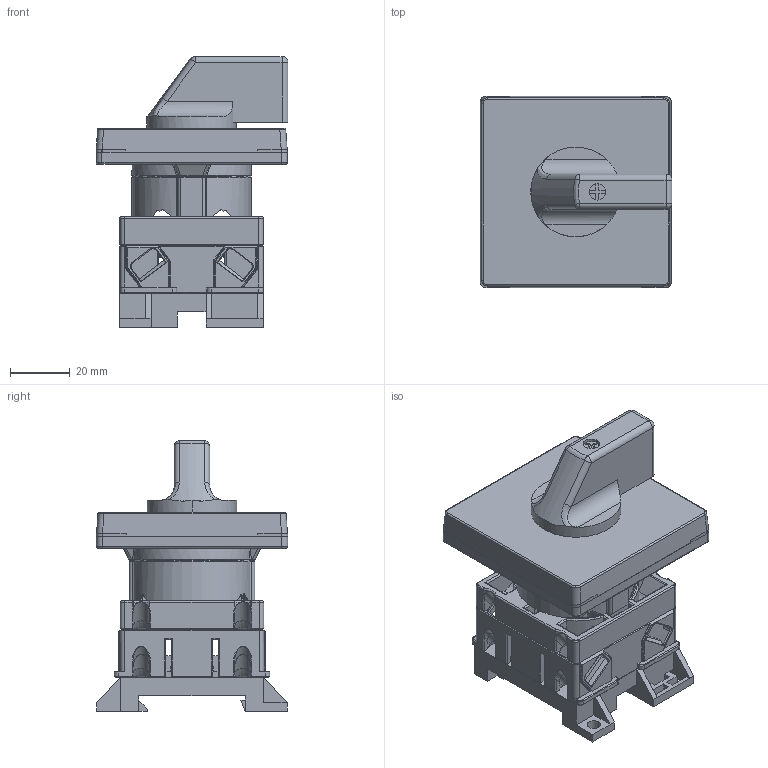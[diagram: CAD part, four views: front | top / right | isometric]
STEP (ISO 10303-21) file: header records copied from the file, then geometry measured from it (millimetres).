
FILE_DESCRIPTION (( 'STEP AP203' ), '1' );
FILE_NAME ('s 18 16-25À (1 ïàêåò).STEP', '2015-12-08T10:13:20', ( '' ), ( '' ), 'SwSTEP 2.0', 'SolidWorks 2012', '' );
FILE_SCHEMA (( 'CONFIG_CONTROL_DESIGN' ));
Length unit declared in the file: millimetre
Products named in the file (8): s 18 16-25À (1 ïàêåò); Ðóêîÿòêà 2; Ïàíåëü ïåðåäíÿÿ_ 2_00; 署赅 囵疱蜩痤忸黜铋 赅戾瘥 2; Êàìåðà àððåòèðîâî÷íàÿ 2; 署赅 觐眚嚓蝽铋 赅戾瘥 2; Êàìåðà êîíòàêòíàÿ_ 2_00; 牮赅 觐眚嚓蝽铋 赅戾瘥 s18
Assembly tree (7 placements, depth 2):
  s 18 16-25À (1 ïàêåò)
    牮赅 觐眚嚓蝽铋 赅戾瘥 s18
    Êàìåðà êîíòàêòíàÿ_ 2_00
    署赅 觐眚嚓蝽铋 赅戾瘥 2
    Êàìåðà àððåòèðîâî÷íàÿ 2
    署赅 囵疱蜩痤忸黜铋 赅戾瘥 2
    Ïàíåëü ïåðåäíÿÿ_ 2_00
    Ðóêîÿòêà 2
Bounding box: 64.21 x 64 x 90.6 mm (x, y, z)
Volume: 92808.5 mm3; surface area: 76511.1 mm2
Topology: 7 solids, 7 shells, 2827 faces, 7586 edges, 4771 vertices
Faces by surface type: plane 1528, cylinder 937, torus 129, cone 102, sphere 68, bspline 63
Entity records: 91108 total; most frequent: CARTESIAN_POINT 20105, ORIENTED_EDGE 15060, DIRECTION 14419, EDGE_CURVE 7530, LINE 4953, VECTOR 4953, VERTEX_POINT 4759, AXIS2_PLACEMENT_3D 4733
